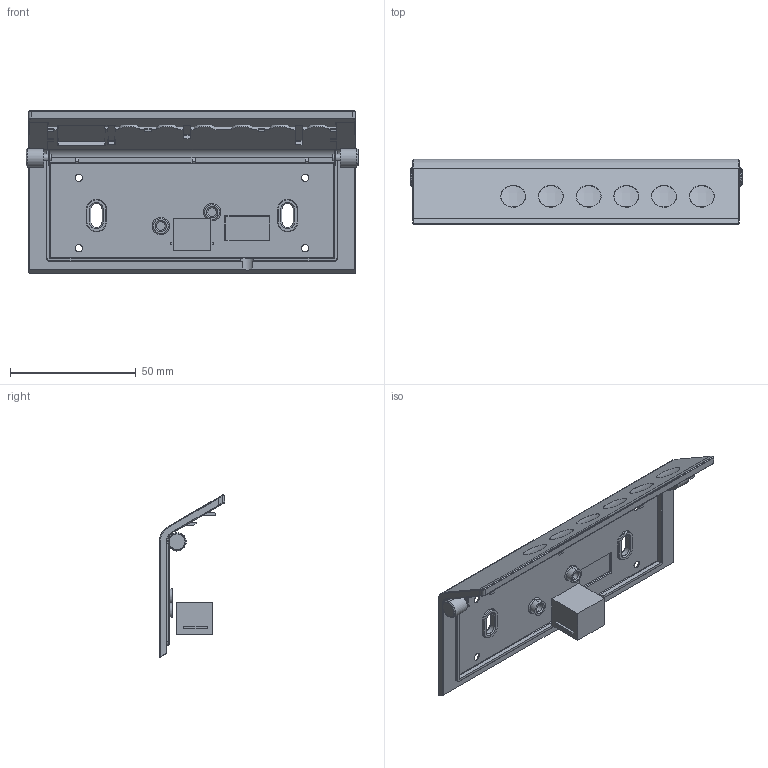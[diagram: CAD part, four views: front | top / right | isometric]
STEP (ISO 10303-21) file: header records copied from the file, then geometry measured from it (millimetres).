
FILE_DESCRIPTION (( 'STEP AP203' ), '1' );
FILE_NAME ('3D_TDH9P.STEP', '2018-06-14T06:28:07', ( '' ), ( '' ), 'SwSTEP 2.0', 'SolidWorks 2015', '' );
FILE_SCHEMA (( 'CONFIG_CONTROL_DESIGN' ));
Length unit declared in the file: millimetre
Products named in the file (7): 標準水晶插座PCB; C滑司; 3D_TDH9P; TDH09_upper housing; TDH09_ transparent part; TDH09_ deco part; 水晶插座
Assembly tree (8 placements, depth 3):
  3D_TDH9P
    TDH09_upper housing
    TDH09_ transparent part
    TDH09_ deco part  x2
    標準水晶插座PCB
      水晶插座
    C滑司  x2
Bounding box: 132 x 25.98 x 64.72 mm (x, y, z)
Volume: 26026.6 mm3; surface area: 26217.3 mm2
Topology: 7 solids, 7 shells, 545 faces, 1362 edges, 844 vertices
Faces by surface type: plane 245, cylinder 174, bspline 90, cone 36
Entity records: 17211 total; most frequent: CARTESIAN_POINT 4978, ORIENTED_EDGE 2462, DIRECTION 2314, EDGE_CURVE 1231, AXIS2_PLACEMENT_3D 784, VERTEX_POINT 768, VECTOR 746, LINE 746
